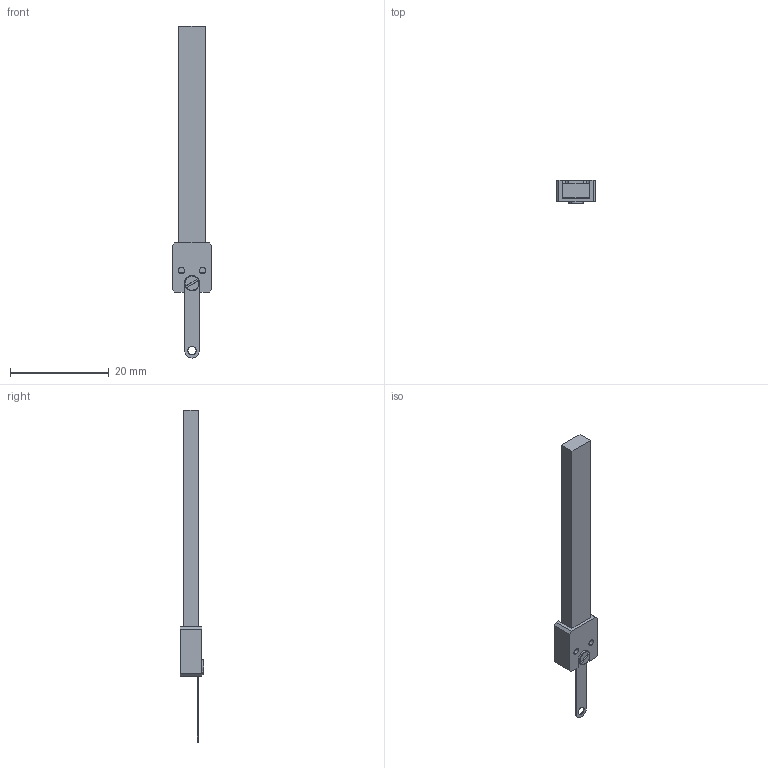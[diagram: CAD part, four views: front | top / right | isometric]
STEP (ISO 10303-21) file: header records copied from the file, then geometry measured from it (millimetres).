
FILE_DESCRIPTION (( 'STEP AP214' ), '1' );
FILE_NAME ('LT4050D_DriveRod_050D1D2-PiezoMotor.STEP', '2017-09-08T13:37:55', ( '' ), ( '' ), 'SwSTEP 2.0', 'SolidWorks 2017', '' );
FILE_SCHEMA (( 'AUTOMOTIVE_DESIGN' ));
Length unit declared in the file: millimetre
Products named in the file (1): LT4050D_DriveRod_050D1D2-PiezoMotor
Bounding box: 8 x 4.8 x 67.35 mm (x, y, z)
Volume: 1020 mm3; surface area: 1376 mm2
Topology: 4 solids, 4 shells, 64 faces, 166 edges, 109 vertices
Faces by surface type: plane 37, cylinder 20, cone 7
Entity records: 2050 total; most frequent: CARTESIAN_POINT 352, DIRECTION 347, ORIENTED_EDGE 332, EDGE_CURVE 166, AXIS2_PLACEMENT_3D 120, VERTEX_POINT 109, LINE 107, VECTOR 107
